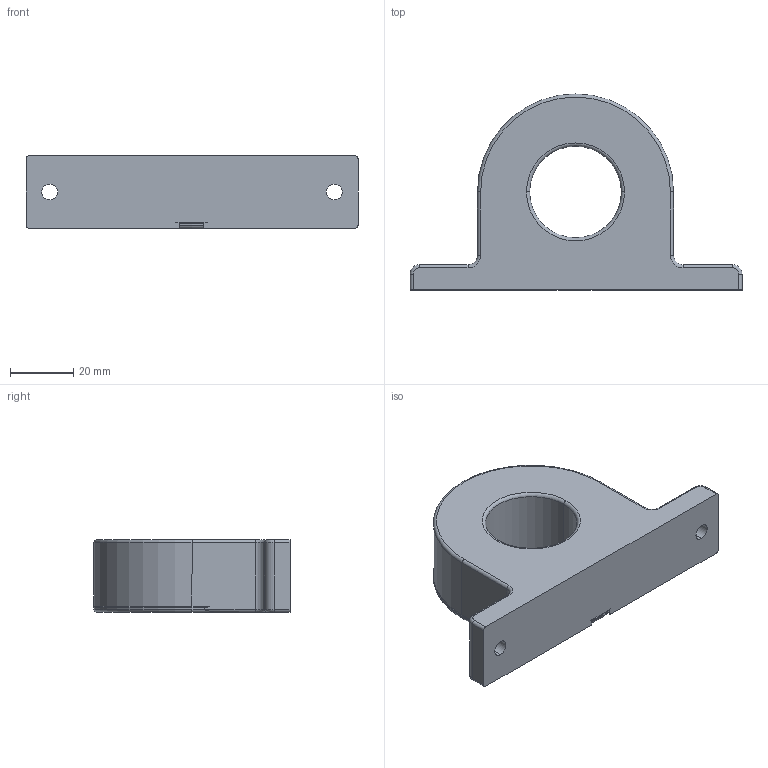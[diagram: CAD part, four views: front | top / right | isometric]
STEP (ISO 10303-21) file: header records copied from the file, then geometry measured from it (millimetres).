
FILE_DESCRIPTION (( 'STEP AP203' ), '1' );
FILE_NAME ('OC-2.STEP', '2016-11-15T10:23:55', ( '' ), ( '' ), 'SwSTEP 2.0', 'SolidWorks 2016', '' );
FILE_SCHEMA (( 'CONFIG_CONTROL_DESIGN' ));
Length unit declared in the file: millimetre
Products named in the file (1): OC-2
Bounding box: 105 x 62 x 23 mm (x, y, z)
Volume: 71129.7 mm3; surface area: 20143.1 mm2
Topology: 2 solids, 2 shells, 63 faces, 149 edges, 90 vertices
Faces by surface type: cylinder 29, torus 19, plane 15
Entity records: 1943 total; most frequent: DIRECTION 362, CARTESIAN_POINT 333, ORIENTED_EDGE 298, AXIS2_PLACEMENT_3D 151, EDGE_CURVE 149, VERTEX_POINT 90, CIRCLE 87, EDGE_LOOP 71
